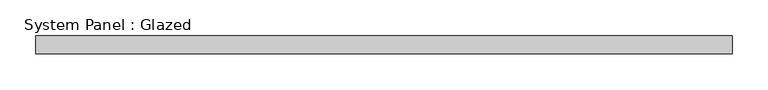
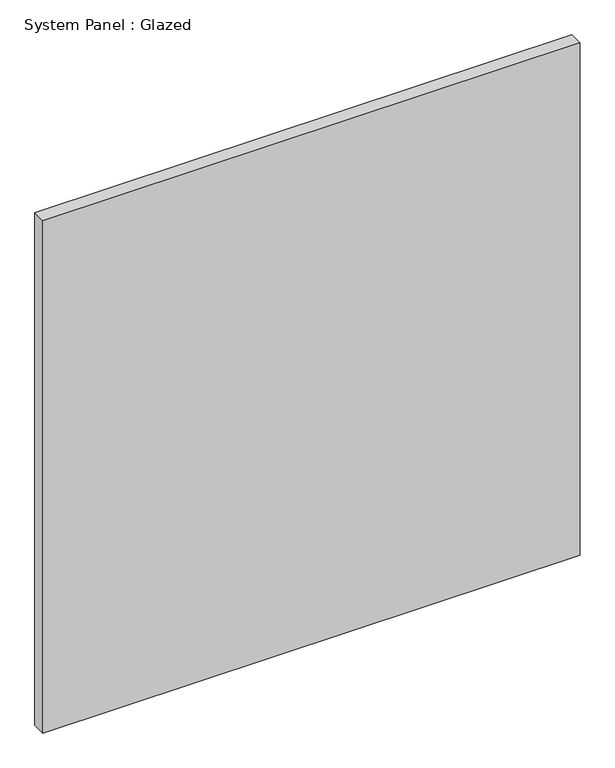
"""IFC4 building model written with IfcOpenShell, lengths in millimetres: plate geometry, System Panel : Glazed."""

from ifc_helpers import new_model, si_unit, origin, origin_with_axes, place, context, project, spatial, polyline, outline, extrude, source, transform, mapped, element, save


def system_panel_glazed_1fbc7b21(model_context):
    return source(origin(), model_context, "Body", "SweptSolid", [
        extrude(outline(polyline([(485.7510959, 24.5), (-485.7510959, 24.5), (-485.7510959, 49.5), (485.7510959, 49.5), (485.7510959, 24.5)])), origin_with_axes(), (0.0, 0.0, 1.0), 978.8970931),
    ])


if __name__ == "__main__":
    model = new_model("IFC4")
    model_context = context("Model", 3, world=origin())
    ifc_project = project(units=[si_unit("LENGTHUNIT", "METRE", prefix="MILLI")], contexts=[model_context])
    site = spatial("IfcSite", under=ifc_project)
    building = spatial("IfcBuilding", under=site)
    placement = place(None, origin())
    system_panel_glazed_shape = system_panel_glazed_1fbc7b21(model_context)
    element("IfcPlate", 1, ObjectType="System Panel : Glazed", at=placement, inside=building, context=model_context, shape_type="MappedRepresentation", body=[
        mapped(system_panel_glazed_shape, transform((0.0, 0.0, 0.0), x_axis=(1.0, 0.0, 0.0), y_axis=(0.0, 1.0, 0.0), z_axis=(0.0, 0.0, 1.0))),
    ])
    save(model, "model.ifc")
